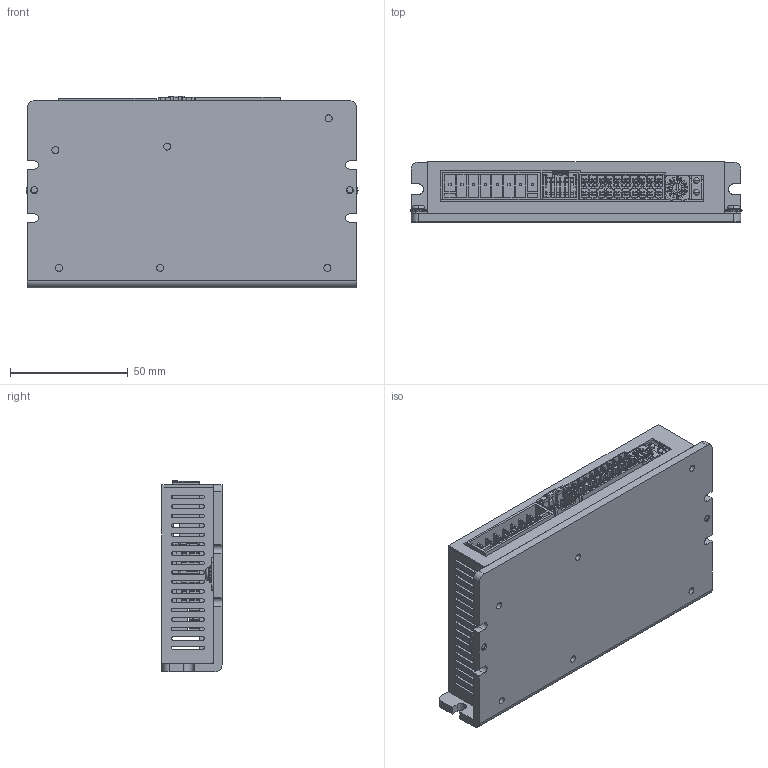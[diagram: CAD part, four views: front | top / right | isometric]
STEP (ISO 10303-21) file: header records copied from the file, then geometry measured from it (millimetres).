
FILE_DESCRIPTION((''),'2;1');
FILE_NAME('LD2-CAN7010_ASM','2021-01-28T',('sunjun'),(''),'PRO/ENGINEER BY PARAMETRIC TECHNOLOGY CORPORATION, 2008090','PRO/ENGINEER BY PARAMETRIC TECHNOLOGY CORPORATION, 2008090','');
FILE_SCHEMA(('CONFIG_CONTROL_DESIGN'));
Length unit declared in the file: millimetre
Products named in the file (14): DB_LD2_CAN7010; GZ_LD2_CAN7010; M3; PCB_LD2CAN7010; GAT33006_8P; 559591230; PHOENIX______2__10; ROTARY_DRR3016-Z_FUJISOKU_; LED_GREEN_RED; DIP_SWITCH_4PIN_VIC2; 559591030; HEADER_2_0_4X; PCB_LD2CAN7010_ASM; LD2-CAN7010_ASM
Assembly tree (15 placements, depth 3):
  LD2-CAN7010_ASM
    DB_LD2_CAN7010
    GZ_LD2_CAN7010
    M3  x2
    PCB_LD2CAN7010_ASM
      PCB_LD2CAN7010
      GAT33006_8P
      559591230
      PHOENIX______2__10
      ROTARY_DRR3016-Z_FUJISOKU_
      LED_GREEN_RED
      DIP_SWITCH_4PIN_VIC2
      559591030  x2
      HEADER_2_0_4X
Bounding box: 141 x 25.5 x 81.48 mm (x, y, z)
Volume: 89700.2 mm3; surface area: 94200.2 mm2
Topology: 14 solids, 14 shells, 3893 faces, 10620 edges, 6873 vertices
Faces by surface type: plane 2961, cylinder 574, cone 206, extrusion 128, torus 16, bspline 4, sphere 4
Entity records: 121983 total; most frequent: CARTESIAN_POINT 35708, ORIENTED_EDGE 18700, DIRECTION 16074, EDGE_CURVE 9350, VECTOR 7690, LINE 7562, VERTEX_POINT 6100, AXIS2_PLACEMENT_3D 4192
